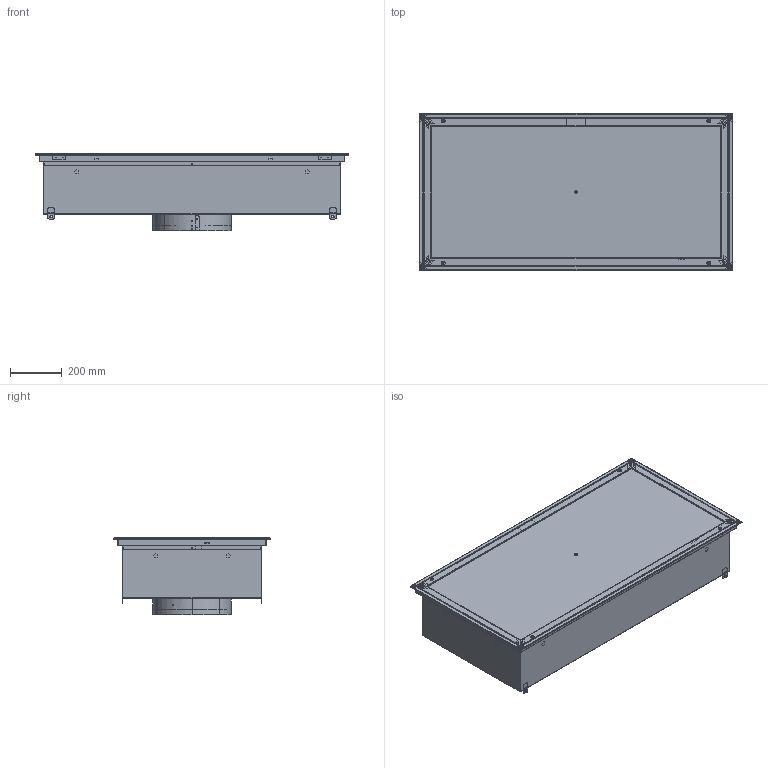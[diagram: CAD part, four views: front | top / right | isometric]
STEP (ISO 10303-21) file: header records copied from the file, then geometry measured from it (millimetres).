
FILE_DESCRIPTION (( 'STEP AP214' ), '1' );
FILE_NAME ('48 X 24_SSLFHFD_NO LED.STEP', '2025-07-25T15:33:00', ( '' ), ( '' ), 'SwSTEP 2.0', 'SolidWorks 2024', '' );
FILE_SCHEMA (( 'AUTOMOTIVE_DESIGN' ));
Length unit declared in the file: inch
Products named in the file (52): 060525-HFDs_C1C1C112_L02; 060525-HFDs_R2B148X24P_L02; 060525-HFDs_R2B1 SUB_L02; 060525-HFDs_H2G12_L02; 060525-HFDs_FC3E-A4_L02; 060525-HFDs_K2A1_L02; 060525-HFDs_SAFETYCABLEASSEMBLY_L02; 48 X 24_SSLFHFD_NO LED; 060525-HFDs_H1E3_L02; 060525-HFDs_P1B1B_L02; 060525-HFDs_PERF SUB_L02; 060525-HFDs_FC3E-A3_L02; 060525-HFDs_FC3E-A1_L02; 060525-HFDs_H1T7_L02_9531K23; 060525-HFDs_SM3X4_L02; 060525-HFDs_H1V7_L02_WASHER, TEFLON: 0.50"OD x 0.25"ID x 0.025"th; 060525-HFDs_SM2X3_L02; 060525-HFDs_PLENUM MASTER_L02; 060525-HFDs_PLASTER SUB_L02; 060525-HFDs_FP1B20-A3_L02; 060525-HFDs_BM5D_L02; 060525-HFDs_FP1B_L02; 060525-HFDs_H1B8_L02; 060525-HFDs_H1P11_L02; 060525-HFDs_H1Z24_L02; 060525-HFDs_SSRD_L02; 060525-HFDs_H2E12_L02_CLIP, HEPA FILTER, SWING ARM; 060525-HFDs_FP1B20-A2_L02; 060525-HFDs_H1T3_L02_GROMMET, BLADE; 060525-HFDs_H1F1_L02_1_4 TURN SPRING; 060525-HFDs_H1V31_L02_WASHER, TEFLON: 0.50"OD x 0.25"ID x 0.025"th; 060525-HFDs_H2E5_L02; 060525-HFDs_H2E11_L02_GUIDE, HEPA FILTER, SWING ARM; 060525-HFDs_FP1B20-A4_L02; 060525-HFDs_H1Z26_L02_LABEL; "CONCENTRATION"; 060525-HFDs_FP1B20-A1_L02; 060525-HFDs_PORT-SUB_L02; 060525-HFDs_FC3E-A2_L02; 060525-HFDs_H2E1_L02_WELD CLIP; 40º BEVEL FRAME; 060525-HFDs_H1A2_L02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
Assembly tree (96 placements, depth 5):
  48 X 24_SSLFHFD_NO LED
    060525-HFDs_PLASTER SUB_L02
      060525-HFDs_FC3E_L02
        060525-HFDs_FC3E-A1_L02
        060525-HFDs_FC3E-A2_L02
        060525-HFDs_FC3E-A3_L02
        060525-HFDs_FC3E-A4_L02
        060525-HFDs_H2E2_L02_WELD CLIP, BOB FRAME  x4
        060525-HFDs_H2G12_L02  x4
        060525-HFDs_H1F1_L02_1_4 TURN SPRING  x4
        060525-HFDs_H2E11_L02_GUIDE, HEPA FILTER, SWING ARM  x6
        060525-HFDs_H2E12_L02_CLIP, HEPA FILTER, SWING ARM  x6
        060525-HFDs_H1V31_L02_WASHER, TEFLON: 0.50"OD x 0.25"ID x 0.025"th  x6
        060525-HFDs_H1Z25_L02_LABEL; "CHALLENGE."
        060525-HFDs_H1Z26_L02_LABEL; "CONCENTRATION"
      060525-HFDs_PORT-SUB_L02  x2
        060525-HFDs_H1P11_L02
        060525-HFDs_H1T7_L02_9531K23
    060525-HFDs_FACE SUB_L02
      060525-HFDs_FP1B_L02
        060525-HFDs_FP1B20-A1_L02
        060525-HFDs_FP1B20-A2_L02
        060525-HFDs_FP1B20-A3_L02
        060525-HFDs_FP1B20-A4_L02
        060525-HFDs_H2E1_L02_WELD CLIP; 40º BEVEL FRAME  x4
        060525-HFDs_H1E1_L02  x4
        060525-HFDs_H1E2_L02  x4
        060525-HFDs_SAFETYCABLEASSEMBLY_L02  x2
          060525-HFDs_H1N2_L02
          060525-HFDs_H1E3_L02
        060525-HFDs_H1Z24_L02
    060525-HFDs_PERF SUB_L02
      060525-HFDs_H1T2_L02
      060525-HFDs_R2B1 SUB_L02
        060525-HFDs_R2B148X24P_L02
    060525-HFDs_PLENUM MASTER_L02
      060525-HFDs_P1B1B SUB_L02
        060525-HFDs_P1B1B_L02
        060525-HFDs_H2E5_L02  x4
    060525-HFDs_C1C1C112_L02
    060525-HFDs_SSRD_L02
      060525-HFDs_H1L1_L02  x4
      060525-HFDs_BM5D_L02  x2
      060525-HFDs_SM2X3_L02
      060525-HFDs_SM3X4_L02
      060525-HFDs_H1A2_L02
      060525-HFDs_H1B4_L02
      060525-HFDs_H1V7_L02_WASHER, TEFLON: 0.50"OD x 0.25"ID x 0.025"th  x2
      060525-HFDs_K2A2_L02  x2
      060525-HFDs_H1T3_L02_GROMMET, BLADE  x2
      060525-HFDs_K2A1_L02
      060525-HFDs_H1B8_L02
Bounding box: 1212.85 x 603.25 x 299.81 mm (x, y, z)
Volume: 2199841.8 mm3; surface area: 5256733.4 mm2
Topology: 103 solids, 103 shells, 3334 faces, 8176 edges, 5141 vertices
Faces by surface type: plane 1583, cylinder 1232, torus 248, bspline 205, cone 44, sphere 22
Entity records: 65002 total; most frequent: CARTESIAN_POINT 19690, ORIENTED_EDGE 9038, DIRECTION 8935, EDGE_CURVE 4519, AXIS2_PLACEMENT_3D 3205, VERTEX_POINT 2829, VECTOR 2525, LINE 2525
